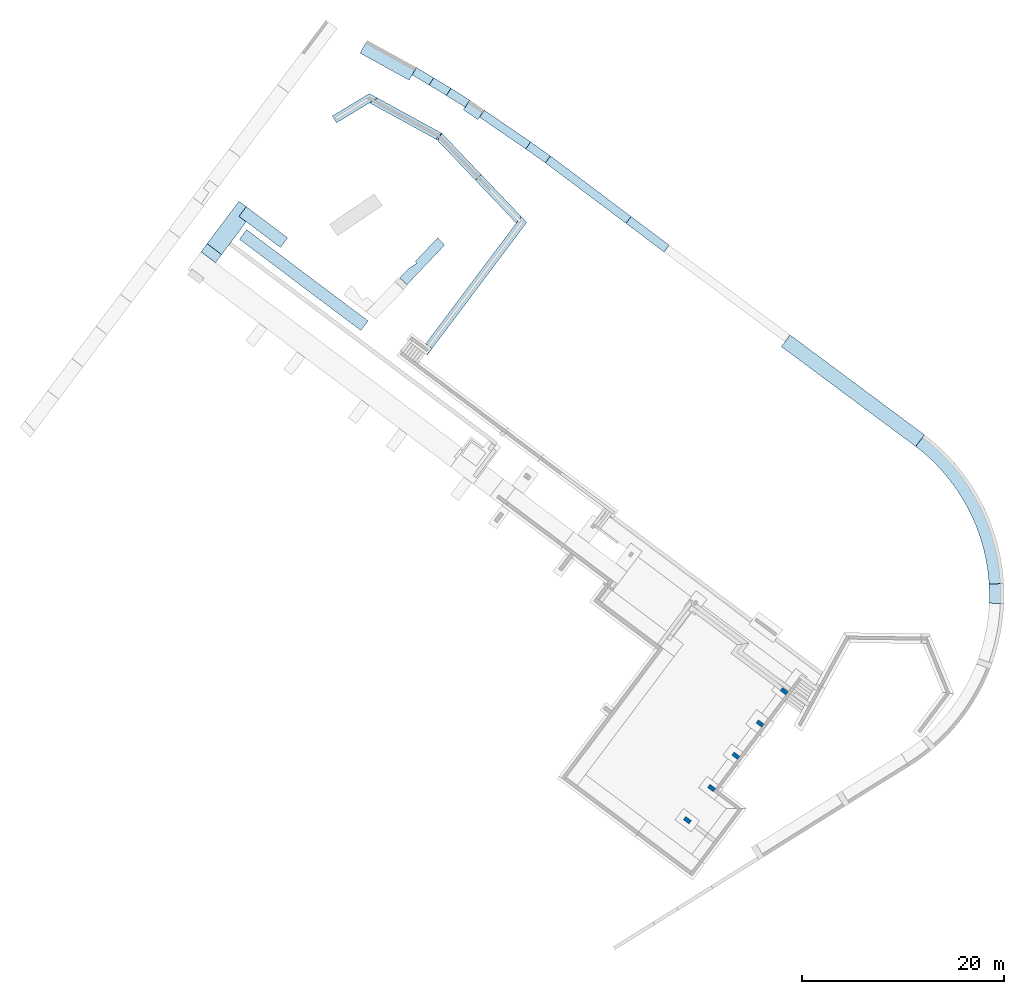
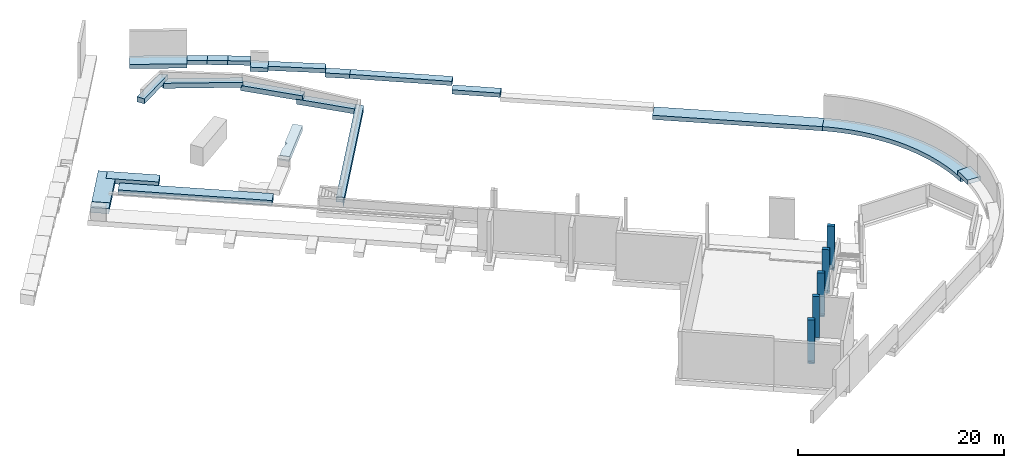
# One storey, part 2 of 9: 22 footings, 5 columns.
"""IFC2X3 building model written with IfcOpenShell, lengths in metres."""

from ifc_helpers import new_model, entity, si_unit, converted_unit, derived_unit, direction, frame, frame_2d, origin, origin_2d_with_axis, place, context, subcontext, project, spatial, polyline, circle_curve, parameter, trimmed, segment, composite_curve, rectangle, outline, extrude, faceted_brep, source, transform, mapped, material, type_object, type_shapes, element, save


model = new_model("IFC2X3")

# Units and contexts
model_context = context("Model", 3, precision=1e-05, world=origin(), true_north=direction((6.123031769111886e-17, 1.0)))
body_context = subcontext(model_context, "Body", "Model", "MODEL_VIEW")
ifc_project = project(units=[si_unit("LENGTHUNIT", "METRE"), si_unit("AREAUNIT", "SQUARE_METRE"), si_unit("VOLUMEUNIT", "CUBIC_METRE"), converted_unit("PLANEANGLEUNIT", "DEGREE", entity("IfcRatioMeasure", 0.017453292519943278), si_unit("PLANEANGLEUNIT", "RADIAN"), dimensions=[0, 0, 0, 0, 0, 0, 0]), si_unit("MASSUNIT", "GRAM", prefix="KILO"), derived_unit("MASSDENSITYUNIT", [(si_unit("MASSUNIT", "GRAM", prefix="KILO"), 1), (si_unit("LENGTHUNIT", "METRE"), -3)]), derived_unit("IONCONCENTRATIONUNIT", [(si_unit("MASSUNIT", "GRAM", prefix="KILO"), 1), (si_unit("LENGTHUNIT", "METRE"), -3)]), derived_unit("MOMENTOFINERTIAUNIT", [(si_unit("LENGTHUNIT", "METRE"), 4)]), si_unit("TIMEUNIT", "SECOND"), si_unit("FREQUENCYUNIT", "HERTZ"), si_unit("THERMODYNAMICTEMPERATUREUNIT", "DEGREE_CELSIUS"), derived_unit("THERMALTRANSMITTANCEUNIT", [(si_unit("MASSUNIT", "GRAM", prefix="KILO"), 1), (si_unit("THERMODYNAMICTEMPERATUREUNIT", "KELVIN"), -1), (si_unit("TIMEUNIT", "SECOND"), -3)]), derived_unit("THERMALCONDUCTANCEUNIT", [(si_unit("MASSUNIT", "GRAM", prefix="KILO"), 1), (si_unit("THERMODYNAMICTEMPERATUREUNIT", "KELVIN"), -1), (si_unit("TIMEUNIT", "SECOND"), -3), (si_unit("LENGTHUNIT", "METRE"), 1)]), derived_unit("VOLUMETRICFLOWRATEUNIT", [(si_unit("LENGTHUNIT", "METRE"), 3), (si_unit("TIMEUNIT", "SECOND"), -1)]), derived_unit("MASSFLOWRATEUNIT", [(si_unit("MASSUNIT", "GRAM", prefix="KILO"), 1), (si_unit("TIMEUNIT", "SECOND"), -1)]), derived_unit("ROTATIONALFREQUENCYUNIT", [(si_unit("TIMEUNIT", "SECOND"), -1)]), si_unit("ELECTRICCURRENTUNIT", "AMPERE"), si_unit("ELECTRICVOLTAGEUNIT", "VOLT"), si_unit("POWERUNIT", "WATT"), si_unit("FORCEUNIT", "NEWTON", prefix="KILO"), si_unit("ILLUMINANCEUNIT", "LUX"), si_unit("LUMINOUSFLUXUNIT", "LUMEN"), si_unit("LUMINOUSINTENSITYUNIT", "CANDELA"), derived_unit("USERDEFINED", [(si_unit("MASSUNIT", "GRAM", prefix="KILO"), -1), (si_unit("LENGTHUNIT", "METRE"), -2), (si_unit("TIMEUNIT", "SECOND"), 3), (si_unit("LUMINOUSFLUXUNIT", "LUMEN"), 1)]), derived_unit("USERDEFINED", [(si_unit("MASSUNIT", "GRAM", prefix="KILO"), 1), (si_unit("TIMEUNIT", "SECOND"), -3), (si_unit("LENGTHUNIT", "METRE"), 3), (si_unit("ELECTRICCURRENTUNIT", "AMPERE"), -2)]), derived_unit("SOUNDPOWERUNIT", [(si_unit("MASSUNIT", "GRAM", prefix="KILO"), 1), (si_unit("TIMEUNIT", "SECOND"), -3), (si_unit("LENGTHUNIT", "METRE"), 2)]), derived_unit("SOUNDPRESSUREUNIT", [(si_unit("MASSUNIT", "GRAM", prefix="KILO"), 1), (si_unit("LENGTHUNIT", "METRE"), -1), (si_unit("TIMEUNIT", "SECOND"), -2)]), derived_unit("LINEARVELOCITYUNIT", [(si_unit("LENGTHUNIT", "METRE"), 1), (si_unit("TIMEUNIT", "SECOND"), -1)]), si_unit("PRESSUREUNIT", "PASCAL"), derived_unit("USERDEFINED", [(si_unit("MASSUNIT", "GRAM", prefix="KILO"), 1), (si_unit("LENGTHUNIT", "METRE"), -2), (si_unit("TIMEUNIT", "SECOND"), -2)]), derived_unit("LINEARFORCEUNIT", [(si_unit("MASSUNIT", "GRAM", prefix="KILO"), 1), (si_unit("TIMEUNIT", "SECOND"), -2)]), derived_unit("PLANARFORCEUNIT", [(si_unit("MASSUNIT", "GRAM", prefix="KILO"), 1), (si_unit("LENGTHUNIT", "METRE"), -1), (si_unit("TIMEUNIT", "SECOND"), -2)]), derived_unit("SPECIFICHEATCAPACITYUNIT", [(si_unit("THERMODYNAMICTEMPERATUREUNIT", "KELVIN"), -1), (si_unit("LENGTHUNIT", "METRE"), 2), (si_unit("TIMEUNIT", "SECOND"), -2)]), derived_unit("HEATINGVALUEUNIT", [(si_unit("LENGTHUNIT", "METRE"), 2), (si_unit("TIMEUNIT", "SECOND"), -2)]), derived_unit("VAPORPERMEABILITYUNIT", [(si_unit("LENGTHUNIT", "METRE"), -1), (si_unit("TIMEUNIT", "SECOND"), 1)]), derived_unit("DYNAMICVISCOSITYUNIT", [(si_unit("MASSUNIT", "GRAM", prefix="KILO"), 1), (si_unit("TIMEUNIT", "SECOND"), -1), (si_unit("LENGTHUNIT", "METRE"), -1)]), derived_unit("THERMALEXPANSIONCOEFFICIENTUNIT", [(si_unit("THERMODYNAMICTEMPERATUREUNIT", "KELVIN"), -1)]), derived_unit("MODULUSOFELASTICITYUNIT", [(si_unit("MASSUNIT", "GRAM", prefix="KILO"), 1), (si_unit("LENGTHUNIT", "METRE"), -1), (si_unit("TIMEUNIT", "SECOND"), -2)]), derived_unit("ISOTHERMALMOISTURECAPACITYUNIT", [(si_unit("LENGTHUNIT", "METRE"), 3), (si_unit("MASSUNIT", "GRAM", prefix="KILO"), -1)]), derived_unit("MOISTUREDIFFUSIVITYUNIT", [(si_unit("TIMEUNIT", "SECOND"), -1), (si_unit("LENGTHUNIT", "METRE"), 2)])], contexts=[model_context])

# Site, building, storey
site_placement = place(None, origin())
site = spatial("IfcSite", under=ifc_project, at=site_placement, Name="Default", CompositionType="ELEMENT")
building_placement = place(site_placement, frame((0.0, 0.0, 235.0), z_axis=(0.0, 0.0, 1.0), x_axis=(-0.7996477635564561, 0.6004693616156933, 0.0)))
building = spatial("IfcBuilding", under=site, at=building_placement, CompositionType="ELEMENT")
storey_placement = place(building_placement, frame((0.0, 0.0, -5.4499999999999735)))
storey = spatial("IfcBuildingStorey", under=building, at=storey_placement, Name="PS1- Gimnàs", CompositionType="ELEMENT", Elevation=-5.4499999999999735)

# Footings
ifc_material = material(Name="_Formigó- T1- STR")
footing_1_placement = place(storey_placement, frame((58.572147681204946, -42.79019175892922, -0.050000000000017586)))
element("IfcFooting", 1, at=footing_1_placement, inside=storey, material=ifc_material, Name="Cimentación de muro:STR- S- Formigó- Sabata mur 120", ObjectType="Cimentación de muro:STR- S- Formigó- Sabata mur 120", PredefinedType="STRIP_FOOTING", context=body_context, shape_type="SweptSolid", body=[
    extrude(rectangle(XDim=15.073000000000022, YDim=1.1999999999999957, at=frame_2d((1.328833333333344, -0.19999999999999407), x_axis=(1.0, 0.0))), frame((8.865333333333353, 0.40000000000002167, 0.0), z_axis=(0.0, 0.0, 1.0), x_axis=(-1.0, 0.0, 0.0)), (0.0, 0.0, 1.0), 0.6000000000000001),
])
footing_2_placement = place(storey_placement, frame((69.89514768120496, -44.59019175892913, -0.050000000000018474)))
element("IfcFooting", 2, at=footing_2_placement, inside=storey, material=ifc_material, Name="Cimentación de muro:STR- S- Formigó- Sabata mur 120", ObjectType="Cimentación de muro:STR- S- Formigó- Sabata mur 120", PredefinedType="STRIP_FOOTING", context=body_context, shape_type="SweptSolid", body=[
    extrude(rectangle(XDim=5.149999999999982, YDim=1.1999999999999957, at=frame_2d((0.43928571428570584, -0.25532857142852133), x_axis=(1.0, 0.0))), frame((2.1357142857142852, 0.8553285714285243, 0.0)), (0.0, 0.0, 1.0), 0.6000000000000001),
])
footing_3_placement = place(storey_placement, frame((51.845147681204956, -60.187111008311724, -1.0499999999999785)))
element("IfcFooting", 3, at=footing_3_placement, inside=storey, material=ifc_material, Name="Cimentación de muro:STR- S- Formigó- Sabata mur 80", ObjectType="Cimentación de muro:STR- S- Formigó- Sabata mur 80", PredefinedType="STRIP_FOOTING", context=body_context, shape_type="SweptSolid", body=[
    extrude(outline(polyline([(1.1684041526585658, -9.189955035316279), (1.9794220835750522, -9.189955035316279), (1.8461926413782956, -8.389955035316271), (-0.6156065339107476, 6.392358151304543), (-1.355417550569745, 6.269152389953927), (-1.4868370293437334, 7.058284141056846), (-1.5361577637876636, 7.050070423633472), (1.1684041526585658, -9.189955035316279)])), frame((0.35714285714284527, 9.390274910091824, 0.0), z_axis=(0.0, 0.0, 1.0), x_axis=(0.9864146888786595, -0.16427434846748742, 0.0)), (0.0, 0.0, 1.0), 0.6),
])
footing_4_placement = place(storey_placement, frame((52.64514768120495, -61.131259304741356, -1.0500000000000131)))
element("IfcFooting", 4, at=footing_4_placement, inside=storey, material=ifc_material, Name="Cimentación de muro:STR- S- Formigó- Sabata mur 80", ObjectType="Cimentación de muro:STR- S- Formigó- Sabata mur 80", PredefinedType="STRIP_FOOTING", context=body_context, shape_type="SweptSolid", body=[
    extrude(outline(polyline([(-2.9070009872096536, -0.39999999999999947), (2.9736157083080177, -0.39999999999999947), (2.8403862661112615, 0.3999999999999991), (-2.9070009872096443, 0.4000000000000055), (-2.9070009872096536, -0.39999999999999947)])), frame((2.867508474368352, 0.8721115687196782, 0.0), z_axis=(0.0, 0.0, 1.0), x_axis=(-0.9864146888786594, 0.16427434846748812, 0.0)), (0.0, 0.0, 1.0), 0.6000000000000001),
])
footing_5_placement = place(storey_placement, frame((63.8047254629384, -62.06460958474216, -0.15000000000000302)))
element("IfcFooting", 5, at=footing_5_placement, inside=storey, material=ifc_material, Name="Cimentación de muro:STR- S- Formigó- Sabata mur 80", ObjectType="Cimentación de muro:STR- S- Formigó- Sabata mur 80", PredefinedType="STRIP_FOOTING", context=body_context, shape_type="SweptSolid", body=[
    extrude(outline(polyline([(-3.2065756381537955, -0.47999999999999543), (4.978256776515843, -0.479999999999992), (4.517180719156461, 0.32000000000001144), (-3.0822862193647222, 0.320000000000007), (-3.2065756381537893, 0.3200000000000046), (-3.2065756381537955, -0.47999999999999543)])), frame((3.2194167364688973, 0.9328151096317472, 0.0), z_axis=(0.0, 0.0, 1.0), x_axis=(0.9897591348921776, 0.14274752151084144, 0.0)), (0.0, 0.0, 1.0), 0.6000000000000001),
])
footing_6_placement = place(storey_placement, frame((71.10483780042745, -61.02822464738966, 0.34999999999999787)))
element("IfcFooting", 6, at=footing_6_placement, inside=storey, material=ifc_material, Name="Cimentación de muro:STR- S- Formigó- Sabata mur 80", ObjectType="Cimentación de muro:STR- S- Formigó- Sabata mur 80", PredefinedType="STRIP_FOOTING", context=body_context, shape_type="Brep", body=[
    faceted_brep([(1.7740946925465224, 4.417751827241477, 0.0), (1.7740946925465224, 4.417751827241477, 0.6000000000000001), (2.5164700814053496, 4.119626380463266, 0.5999999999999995), (2.5164700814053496, 4.119626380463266, 0.0), (0.0, 0.0, 0.6000000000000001), (0.9150983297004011, 0.1319796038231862, 0.599999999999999), (0.34454607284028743, 0.8579694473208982, 0.0), (0.3445460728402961, 0.8579694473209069, 0.09999999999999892), (0.0, 0.0, 0.09999999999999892), (0.9150983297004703, 0.13197960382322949, 0.0), (0.9150983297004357, 0.13197960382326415, 0.09999999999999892)], [[[0, 1, 2, 3]], [[1, 4, 5, 2]], [[1, 0, 6, 7, 8, 4]], [[0, 3, 9, 6]], [[3, 2, 5, 10, 9]], [[5, 4, 8, 10]], [[7, 10, 8]], [[10, 7, 6, 9]]]),
])
footing_7_placement = place(storey_placement, frame((57.015714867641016, -53.53502235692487, 0.7999999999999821)))
element("IfcFooting", 7, at=footing_7_placement, inside=storey, material=ifc_material, Name="Cimentación de muro:STR- S- Formigó- Sabata mur 100 T-30", ObjectType="Cimentación de muro:STR- S- Formigó- Sabata mur 100 T-30", PredefinedType="STRIP_FOOTING", context=body_context, shape_type="SweptSolid", body=[
    extrude(outline(polyline([(-2.3620493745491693, -0.6834209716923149), (3.0514310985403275, -0.683420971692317), (3.1211609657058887, 0.316579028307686), (-0.12251246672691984, 0.316579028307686), (-0.16983977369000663, 0.10052583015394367), (-1.1561410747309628, 0.3165790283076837), (-2.36204937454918, 0.31657902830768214), (-2.3620493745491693, -0.6834209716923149)])), frame((1.0274868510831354, 3.1368940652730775, 0.0), z_axis=(0.0, 0.0, 1.0), x_axis=(-0.11422137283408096, -0.9934553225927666, 0.0)), (0.0, 0.0, 1.0), 0.6000000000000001),
])
footing_8_placement = place(storey_placement, frame((74.14514768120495, -39.3151917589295, -0.050000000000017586)))
element("IfcFooting", 8, at=footing_8_placement, inside=storey, material=ifc_material, Name="Cimentación de muro:STR- S- Formigó- Sabata mur 180", ObjectType="Cimentación de muro:STR- S- Formigó- Sabata mur 180", PredefinedType="STRIP_FOOTING", context=body_context, shape_type="SweptSolid", body=[
    extrude(rectangle(XDim=1.0000000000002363, YDim=1.799999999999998, at=frame_2d((1.2989609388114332e-14, -4.3298697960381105e-15), x_axis=(1.0, 0.0))), frame((0.9000000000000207, 0.5000000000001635, 0.0), z_axis=(0.0, 0.0, 1.0), x_axis=(0.0, 1.0, 0.0)), (0.0, 0.0, 1.0), 0.6000000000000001),
])
footing_9_placement = place(storey_placement, frame((74.14514768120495, -44.59019175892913, -0.05000000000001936)))
element("IfcFooting", 9, at=footing_9_placement, inside=storey, material=ifc_material, Name="Cimentación de muro:STR- S- Formigó- Sabata mur 180", ObjectType="Cimentación de muro:STR- S- Formigó- Sabata mur 180", PredefinedType="STRIP_FOOTING", context=body_context, shape_type="SweptSolid", body=[
    extrude(outline(polyline([(-3.116666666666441, -0.9000000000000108), (0.9583333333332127, -0.9000000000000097), (0.9583333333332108, 0.0), (2.158333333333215, 0.0), (2.1583333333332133, 0.8999999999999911), (-3.1166666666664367, 0.8999999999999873), (-3.116666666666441, -0.9000000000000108)])), frame((0.900000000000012, 2.1583333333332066, 0.0), z_axis=(0.0, 0.0, 1.0), x_axis=(0.0, -1.0, 0.0)), (0.0, 0.0, 1.0), 0.6000000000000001),
])
footing_10_placement = place(storey_placement, frame((69.6638592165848, -65.76654735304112, -0.4750000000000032)))
element("IfcFooting", 10, at=footing_10_placement, inside=storey, material=ifc_material, Name="Cimentación de muro:STR- S- Formigó- Sabata MP1 +2m", ObjectType="Cimentación de muro:STR- S- Formigó- Sabata MP1 +2m", PredefinedType="STRIP_FOOTING", context=body_context, shape_type="SweptSolid", body=[
    extrude(outline(polyline([(-3.3417884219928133, -0.7000000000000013), (2.2151264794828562, -0.7000000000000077), (2.2263062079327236, -0.10000000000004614), (2.2421441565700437, 0.7499999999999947), (-3.34178842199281, 0.7499999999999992), (-3.3417884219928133, -0.7000000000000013)])), frame((2.291214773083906, 1.0559837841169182, 0.0), z_axis=(0.0, 0.0, 1.0), x_axis=(-0.990186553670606, -0.13975188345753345, 0.0)), (0.0, 0.0, 1.0), 0.5),
])
footing_11_placement = place(storey_placement, frame((67.77089368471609, -65.97126538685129, -0.4750000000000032)))
element("IfcFooting", 11, at=footing_11_placement, inside=storey, material=ifc_material, Name="Cimentación de muro:STR- S- Formigó- Sabata MP -1 m", ObjectType="Cimentación de muro:STR- S- Formigó- Sabata MP -1 m", PredefinedType="STRIP_FOOTING", context=body_context, shape_type="SweptSolid", body=[
    extrude(outline(polyline([(-0.9920644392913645, -0.4249999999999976), (0.9999834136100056, -0.4249999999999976), (0.9841454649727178, 0.4250000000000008), (-0.9920644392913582, 0.425000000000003), (-0.9920644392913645, -0.4249999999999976)])), frame((1.0304880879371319, 0.5247019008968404, 0.0), z_axis=(0.0, 0.0, 1.0), x_axis=(0.9947053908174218, 0.10276762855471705, 0.0)), (0.0, 0.0, 1.0), 0.4999999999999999),
])
footing_12_placement = place(storey_placement, frame((63.59137409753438, -66.3621164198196, -0.4750000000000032)))
element("IfcFooting", 12, at=footing_12_placement, inside=storey, material=ifc_material, Name="Cimentación de muro:STR- S- Formigó- Sabata MP -1 m", ObjectType="Cimentación de muro:STR- S- Formigó- Sabata MP -1 m", PredefinedType="STRIP_FOOTING", context=body_context, shape_type="SweptSolid", body=[
    extrude(outline(polyline([(-0.41417602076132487, -1.471100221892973), (0.43586301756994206, -1.471100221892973), (0.4569882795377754, 0.7330742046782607), (-0.04263885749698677, 0.7378627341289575), (-0.04306373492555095, 0.7300430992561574), (-0.392972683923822, 0.7412204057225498), (-0.41417602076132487, -1.471100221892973)])), frame((0.7724863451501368, 0.4603650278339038, 0.0), z_axis=(0.0, 0.0, 1.0), x_axis=(-0.09322988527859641, 0.9956446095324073, 0.0)), (0.0, 0.0, 1.0), 0.5),
])
footing_13_placement = place(storey_placement, frame((61.86271337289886, -66.43066463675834, -0.9750000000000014)))
element("IfcFooting", 13, at=footing_13_placement, inside=storey, material=ifc_material, Name="Cimentación de muro:STR- S- Formigó- Sabata MP -1 i 2 m", ObjectType="Cimentación de muro:STR- S- Formigó- Sabata MP -1 i 2 m", PredefinedType="STRIP_FOOTING", context=body_context, shape_type="SweptSolid", body=[
    extrude(outline(polyline([(-1.0532421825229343, -0.5200000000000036), (0.7029554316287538, -0.5200000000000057), (0.7024626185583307, -0.21999999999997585), (0.7010663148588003, 0.6299999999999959), (-1.0532421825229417, 0.6299999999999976), (-1.0532421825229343, -0.5200000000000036)])), frame((0.7227371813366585, 0.6569124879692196, 0.0), z_axis=(0.0, 0.0, 1.0), x_axis=(-0.999236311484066, -0.03907420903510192, 0.0)), (0.0, 0.0, 1.0), 0.49999999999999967),
])
footing_14_placement = place(storey_placement, frame((65.78791798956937, -66.17697300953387, -0.4750000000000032)))
element("IfcFooting", 14, at=footing_14_placement, inside=storey, material=ifc_material, Name="Cimentación de muro:STR- S- Formigó- Sabata MP -1 m", ObjectType="Cimentación de muro:STR- S- Formigó- Sabata MP -1 m", PredefinedType="STRIP_FOOTING", context=body_context, shape_type="SweptSolid", body=[
    extrude(outline(polyline([(-0.9988019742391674, -0.4250000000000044), (0.994728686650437, -0.4250000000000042), (1.0028752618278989, 0.42499999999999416), (-0.9988019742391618, 0.4249999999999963), (-0.9988019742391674, -0.4250000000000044)])), frame((1.0331382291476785, 0.5258129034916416, 0.0), z_axis=(0.0, 0.0, 1.0), x_axis=(-0.9947053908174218, -0.10276762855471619, 0.0)), (0.0, 0.0, 1.0), 0.5),
])
footing_15_placement = place(storey_placement, frame((56.301814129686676, -66.6668773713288, -0.9750000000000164)))
element("IfcFooting", 15, at=footing_15_placement, inside=storey, material=ifc_material, Name="Cimentación de muro:STR- S- Formigó- Sabata MP -1 m", ObjectType="Cimentación de muro:STR- S- Formigó- Sabata MP -1 m", PredefinedType="STRIP_FOOTING", context=body_context, shape_type="SweptSolid", body=[
    extrude(outline(polyline([(-0.39389916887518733, -3.717819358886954), (0.4561019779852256, -3.7178193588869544), (0.4469387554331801, 1.8602931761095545), (-0.05302499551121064, 1.8594718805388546), (-0.05305647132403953, 1.8569767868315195), (-0.40306009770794, 1.85889687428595), (-0.39389916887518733, -3.717819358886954)])), frame((1.8769479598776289, 0.4784119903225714, 0.0), z_axis=(0.0, 0.0, 1.0), x_axis=(-0.04071560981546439, 0.9991707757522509, 0.0)), (0.0, 0.0, 1.0), 0.4999999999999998),
])
footing_16_placement = place(storey_placement, frame((43.92766201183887, -66.73449841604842, -1.4750000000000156)))
element("IfcFooting", 16, at=footing_16_placement, inside=storey, material=ifc_material, Name="Cimentación de muro:STR- S- Formigó- Sabata MP -1 m", ObjectType="Cimentación de muro:STR- S- Formigó- Sabata MP -1 m", PredefinedType="STRIP_FOOTING", context=body_context, shape_type="SweptSolid", body=[
    extrude(outline(polyline([(-4.9937447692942, -0.425000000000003), (4.99971905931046, -0.425000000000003), (4.999719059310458, 0.4249999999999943), (-5.005693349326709, 0.4249999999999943), (-4.9937447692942, -0.425000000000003)])), frame((4.9997190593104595, 0.42499999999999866, 0.0), z_axis=(0.0, 0.0, 1.0), x_axis=(-1.0, 0.0, 0.0)), (0.0, 0.0, 1.0), 0.5),
])
footing_17_placement = place(storey_placement, frame((39.20251713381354, -66.73449841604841, -2.4750000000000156)))
element("IfcFooting", 17, at=footing_17_placement, inside=storey, material=ifc_material, Name="Cimentación de muro:STR- S- Formigó- Sabata MP -1 m", ObjectType="Cimentación de muro:STR- S- Formigó- Sabata MP -1 m", PredefinedType="STRIP_FOOTING", context=body_context, shape_type="SweptSolid", body=[
    extrude(rectangle(XDim=4.725144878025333, YDim=0.8499999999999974, at=frame_2d((-0.787366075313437, -0.08333333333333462), x_axis=(1.0, 0.0))), frame((1.575206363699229, 0.3416666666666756, 0.0), z_axis=(0.0, 0.0, 1.0), x_axis=(-1.0, 0.0, 0.0)), (0.0, 0.0, 1.0), 0.5),
])
footing_18_placement = place(storey_placement, frame((7.636766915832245, -66.89283170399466, -3.475000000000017)))
element("IfcFooting", 18, at=footing_18_placement, inside=storey, material=ifc_material, Name="Cimentación de muro:STR- S- Formigó- Sabata MP1 +2m", ObjectType="Cimentación de muro:STR- S- Formigó- Sabata MP1 +2m", PredefinedType="STRIP_FOOTING", context=body_context, shape_type="SweptSolid", body=[
    extrude(outline(polyline([(-8.31023119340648, -0.7249999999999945), (8.306105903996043, -0.7250000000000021), (8.314356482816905, 0.7249999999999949), (-8.310231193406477, 0.7250000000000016), (-8.31023119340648, -0.7249999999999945)])), frame((8.310893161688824, 0.7636776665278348, 0.0), z_axis=(0.0, 0.0, 1.0), x_axis=(-0.9999891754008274, -0.0046528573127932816, 0.0)), (0.0, 0.0, 1.0), 0.5),
])
footing_19_placement = place(storey_placement, frame((-7.878734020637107, -66.89442697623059, -3.475000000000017)))
element("IfcFooting", 19, at=footing_19_placement, inside=storey, material=ifc_material, Name="Cimentación de muro:STR- S- Formigó- Sabata MP1 +2m", ObjectType="Cimentación de muro:STR- S- Formigó- Sabata MP1 +2m", PredefinedType="STRIP_FOOTING", context=body_context, shape_type="SweptSolid", body=[
    extrude(outline(composite_curve([segment(polyline([(2.8576747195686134, -7.498032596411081), (4.307674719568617, -7.49803259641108)]), True, "CONTINUOUS"), segment(trimmed(circle_curve(frame_2d((-15.692325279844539, -7.498032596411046), x_axis=(0.6280964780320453, 0.7781354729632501)), 19.999999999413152), [parameter(308.90982334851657)], [parameter(0.0)], True, "PARAMETER"), True, "CONTINUOUS"), segment(polyline([(-3.1303957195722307, 8.064676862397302), (-4.03495371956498, 6.931388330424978)]), True, "CONTINUOUS"), segment(trimmed(circle_curve(frame_2d((-15.692325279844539, -7.498032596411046), x_axis=(0.6280964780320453, 0.7781354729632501)), 18.54999999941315), [parameter(308.9098233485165)], [parameter(359.9754574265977)], True, "PARAMETER"), False, "CONTINUOUS")], self_intersect=False)), frame((8.042475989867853, 4.359609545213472, 0.0), z_axis=(0.0, 0.0, 1.0), x_axis=(-0.7822122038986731, -0.623012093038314, 0.0)), (0.0, 0.0, 1.0), 0.4999999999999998),
])
footing_20_placement = place(storey_placement, frame((53.921125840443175, -66.73449841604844, -1.4750000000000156)))
element("IfcFooting", 20, at=footing_20_placement, inside=storey, material=ifc_material, Name="Cimentación de muro:STR- S- Formigó- Sabata MP -1 m", ObjectType="Cimentación de muro:STR- S- Formigó- Sabata MP -1 m", PredefinedType="STRIP_FOOTING", context=body_context, shape_type="SweptSolid", body=[
    extrude(outline(polyline([(-1.1998596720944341, -0.42499999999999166), (1.193885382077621, -0.4249999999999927), (1.2058339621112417, 0.42500000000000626), (-1.1998596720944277, 0.42500000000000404), (-1.1998596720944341, -0.42499999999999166)])), frame((1.205359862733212, 0.4587265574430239, 0.0), z_axis=(0.0, 0.0, 1.0), x_axis=(-0.9996048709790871, -0.028108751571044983, 0.0)), (0.0, 0.0, 1.0), 0.4999999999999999),
])
footing_21_placement = place(storey_placement, frame((-8.718188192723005, -59.82377487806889, -2.9750000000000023)))
element("IfcFooting", 21, at=footing_21_placement, inside=storey, material=ifc_material, Name="Cimentación de muro:STR- S- Formigó- Sabata MP1 +2m", ObjectType="Cimentación de muro:STR- S- Formigó- Sabata MP1 +2m", PredefinedType="STRIP_FOOTING", context=body_context, shape_type="SweptSolid", body=[
    extrude(outline(composite_curve([segment(trimmed(circle_curve(frame_2d((-19.29803863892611, 0.7216356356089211), x_axis=(1.0, 0.0)), 19.999999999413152), [parameter(354.2198688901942)], [parameter(358.2622383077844)], True, "PARAMETER"), True, "CONTINUOUS"), segment(trimmed(circle_curve(frame_2d((-19.29803863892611, 0.7216356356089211), x_axis=(1.0, 0.0)), 19.999999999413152), [parameter(358.2622383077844)], [parameter(0.0)], True, "PARAMETER"), True, "CONTINUOUS"), segment(polyline([(0.7019613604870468, 0.721635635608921), (0.35196136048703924, 0.7216356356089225)]), True, "CONTINUOUS"), segment(polyline([(0.35196136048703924, 0.7216356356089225), (-0.7480386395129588, 0.721635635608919)]), True, "CONTINUOUS"), segment(trimmed(circle_curve(frame_2d((-19.29803863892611, 0.7216356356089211), x_axis=(1.0, 0.0)), 18.549999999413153), [parameter(358.2622383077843)], [parameter(0.0)], True, "PARAMETER"), False, "CONTINUOUS"), segment(trimmed(circle_curve(frame_2d((-19.29803863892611, 0.7216356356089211), x_axis=(1.0, 0.0)), 18.549999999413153), [parameter(354.2198688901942)], [parameter(358.2622383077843)], True, "PARAMETER"), False, "CONTINUOUS"), segment(polyline([(-0.8423525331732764, -1.1465587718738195), (0.6002752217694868, -1.2925901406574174)]), True, "CONTINUOUS")], self_intersect=False)), frame((1.2951709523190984, 1.0059543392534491, 0.0), z_axis=(0.0, 0.0, 1.0), x_axis=(-0.7629596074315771, -0.6464461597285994, 0.0)), (0.0, 0.0, 1.0), 0.5),
])
footing_22_placement = place(storey_placement, frame((57.72260607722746, -62.06460958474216, -0.5499999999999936)))
element("IfcFooting", 22, at=footing_22_placement, inside=storey, material=ifc_material, Name="Cimentación de muro:STR- S- Formigó- Sabata mur 80", ObjectType="Cimentación de muro:STR- S- Formigó- Sabata mur 80", PredefinedType="STRIP_FOOTING", context=body_context, shape_type="Brep", body=[
    faceted_brep([(0.0, 1.0319148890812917, 0.6000000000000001), (0.13141947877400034, 1.8210466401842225, 0.6000000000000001), (0.13141947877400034, 1.8210466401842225, 0.09999999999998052), (0.0, 1.0319148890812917, 0.09999999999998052), (6.196317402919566, 0.0, 0.0), (6.327736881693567, 0.7891317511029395, 0.0), (6.327736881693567, 0.7891317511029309, 0.3999999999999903), (6.196317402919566, 0.0, 0.3999999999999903), (6.1963174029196, 0.0, 0.6000000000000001), (6.082119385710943, 0.7918073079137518, 0.6000000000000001), (6.205135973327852, 0.8095493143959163, 0.6000000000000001), (6.205135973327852, 0.8095493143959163, 0.3999999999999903), (0.723268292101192, 1.7224820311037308, 0.0), (0.7232682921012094, 1.7224820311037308, 0.09999999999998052), (0.591848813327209, 0.9333502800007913, 0.0), (0.5918488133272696, 0.9333502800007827, 0.09999999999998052), (6.082119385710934, 0.7918073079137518, 0.3999999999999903)], [[[0, 1, 2, 3]], [[4, 5, 6, 7]], [[0, 8, 9, 10, 1]], [[2, 1, 10, 11, 6, 5, 12, 13]], [[5, 4, 14, 12]], [[8, 0, 3, 15, 14, 4, 7]], [[15, 13, 12, 14]], [[13, 15, 3, 2]], [[16, 11, 10, 9]], [[16, 7, 6, 11]], [[7, 16, 9, 8]]]),
])

# Columns
column_type_1 = type_object("IfcColumnType", Name="STR- P- Formigó- Rectangular- T1:40x70cm", PredefinedType="COLUMN", material=ifc_material)
shared_shape_1 = source(origin(), body_context, "Body", "SweptSolid", [
    extrude(rectangle(XDim=0.4, YDim=0.7000000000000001, at=frame_2d((2.1649348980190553e-15, -5.551115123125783e-16), x_axis=(1.0, 0.0))), frame((3.4951476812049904, -26.190191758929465, -6.0), z_axis=(0.0, 0.0, 1.0), x_axis=(0.0, -1.0, 0.0)), (0.0, 0.0, 1.0), 0.2000000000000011),
    extrude(rectangle(XDim=0.4, YDim=0.7000000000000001, at=frame_2d((2.1649348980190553e-15, -5.551115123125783e-16), x_axis=(1.0, 0.0))), frame((3.4951476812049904, -26.190191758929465, -5.649999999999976), z_axis=(0.0, 0.0, 1.0), x_axis=(0.0, -1.0, 0.0)), (0.0, 0.0, 1.0), 4.859999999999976),
])
type_shapes(column_type_1, [shared_shape_1])
column_1_placement = place(storey_placement, frame((0.0, 0.0, 5.4499999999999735)))
element("IfcColumn", 23, at=column_1_placement, inside=storey, type_object=column_type_1, material=ifc_material, Name="STR- P- Formigó- Rectangular- T1:40x70cm", ObjectType="STR- P- Formigó- Rectangular- T1:40x70cm", context=body_context, shape_type="MappedRepresentation", body=[
    mapped(shared_shape_1, transform((0.0, 0.0, 0.0), scale=1.0)),
])
column_type_2 = type_object("IfcColumnType", Name="STR- P- Formigó- Rectangular- T1:40x70cm", PredefinedType="COLUMN", material=ifc_material)
shared_shape_2 = source(origin(), body_context, "Body", "SweptSolid", [
    extrude(rectangle(XDim=0.4, YDim=0.7000000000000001, at=frame_2d((2.1649348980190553e-15, 0.0), x_axis=(1.0, 0.0))), frame((3.4951476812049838, -30.19019175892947, -6.0), z_axis=(0.0, 0.0, 1.0), x_axis=(0.0, -1.0, 0.0)), (0.0, 0.0, 1.0), 0.2000000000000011),
    extrude(rectangle(XDim=0.4, YDim=0.7000000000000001, at=frame_2d((2.1649348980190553e-15, 0.0), x_axis=(1.0, 0.0))), frame((3.4951476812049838, -30.19019175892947, -5.649999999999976), z_axis=(0.0, 0.0, 1.0), x_axis=(0.0, -1.0, 0.0)), (0.0, 0.0, 1.0), 4.859999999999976),
])
type_shapes(column_type_2, [shared_shape_2])
column_2_placement = place(storey_placement, frame((0.0, 0.0, 5.4499999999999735)))
element("IfcColumn", 24, at=column_2_placement, inside=storey, type_object=column_type_2, material=ifc_material, Name="STR- P- Formigó- Rectangular- T1:40x70cm", ObjectType="STR- P- Formigó- Rectangular- T1:40x70cm", context=body_context, shape_type="MappedRepresentation", body=[
    mapped(shared_shape_2, transform((0.0, 0.0, 0.0), scale=1.0)),
])
column_type_3 = type_object("IfcColumnType", Name="STR- P- Formigó- Rectangular- T1:40x70cm", PredefinedType="COLUMN", material=ifc_material)
shared_shape_3 = source(origin(), body_context, "Body", "SweptSolid", [
    extrude(rectangle(XDim=0.4, YDim=0.7000000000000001, at=frame_2d((2.1649348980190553e-15, -5.551115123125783e-16), x_axis=(1.0, 0.0))), frame((3.4951476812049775, -34.190191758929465, -6.0), z_axis=(0.0, 0.0, 1.0), x_axis=(0.0, -1.0, 0.0)), (0.0, 0.0, 1.0), 0.2000000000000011),
    extrude(rectangle(XDim=0.4, YDim=0.7000000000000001, at=frame_2d((2.1649348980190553e-15, -5.551115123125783e-16), x_axis=(1.0, 0.0))), frame((3.4951476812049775, -34.190191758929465, -5.649999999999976), z_axis=(0.0, 0.0, 1.0), x_axis=(0.0, -1.0, 0.0)), (0.0, 0.0, 1.0), 4.859999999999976),
])
type_shapes(column_type_3, [shared_shape_3])
column_3_placement = place(storey_placement, frame((0.0, 0.0, 5.4499999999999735)))
element("IfcColumn", 25, at=column_3_placement, inside=storey, type_object=column_type_3, material=ifc_material, Name="STR- P- Formigó- Rectangular- T1:40x70cm", ObjectType="STR- P- Formigó- Rectangular- T1:40x70cm", context=body_context, shape_type="MappedRepresentation", body=[
    mapped(shared_shape_3, transform((0.0, 0.0, 0.0), scale=1.0)),
])
column_type_4 = type_object("IfcColumnType", Name="STR- P- Formigó- Rectangular- T1:40x70cm", PredefinedType="COLUMN", material=ifc_material)
shared_shape_4 = source(origin(), body_context, "Body", "SweptSolid", [
    extrude(rectangle(XDim=0.4, YDim=0.7000000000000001, at=frame_2d((2.1649348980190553e-15, 0.0), x_axis=(1.0, 0.0))), frame((3.4951476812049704, -38.190191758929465, -6.0), z_axis=(0.0, 0.0, 1.0), x_axis=(0.0, -1.0, 0.0)), (0.0, 0.0, 1.0), 0.2000000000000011),
    extrude(rectangle(XDim=0.4, YDim=0.7000000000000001, at=frame_2d((2.1649348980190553e-15, 0.0), x_axis=(1.0, 0.0))), frame((3.4951476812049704, -38.190191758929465, -5.649999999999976), z_axis=(0.0, 0.0, 1.0), x_axis=(0.0, -1.0, 0.0)), (0.0, 0.0, 1.0), 4.859999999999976),
])
type_shapes(column_type_4, [shared_shape_4])
column_4_placement = place(storey_placement, frame((0.0, 0.0, 5.4499999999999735)))
element("IfcColumn", 26, at=column_4_placement, inside=storey, type_object=column_type_4, material=ifc_material, Name="STR- P- Formigó- Rectangular- T1:40x70cm", ObjectType="STR- P- Formigó- Rectangular- T1:40x70cm", context=body_context, shape_type="MappedRepresentation", body=[
    mapped(shared_shape_4, transform((0.0, 0.0, 0.0), scale=1.0)),
])
column_type_5 = type_object("IfcColumnType", Name="STR- P- Formigó- Rectangular- T1:40x70cm", PredefinedType="COLUMN", material=ifc_material)
shared_shape_5 = source(origin(), body_context, "Body", "SweptSolid", [
    extrude(rectangle(XDim=0.4, YDim=0.7000000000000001, at=origin_2d_with_axis()), frame((3.4951476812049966, -22.190191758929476, -6.0), z_axis=(0.0, 0.0, 1.0), x_axis=(0.0, -1.0, 0.0)), (0.0, 0.0, 1.0), 0.2000000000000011),
    extrude(rectangle(XDim=0.4, YDim=0.7000000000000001, at=origin_2d_with_axis()), frame((3.4951476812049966, -22.190191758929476, -5.649999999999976), z_axis=(0.0, 0.0, 1.0), x_axis=(0.0, -1.0, 0.0)), (0.0, 0.0, 1.0), 4.859999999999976),
])
type_shapes(column_type_5, [shared_shape_5])
column_5_placement = place(storey_placement, frame((0.0, 0.0, 5.4499999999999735)))
element("IfcColumn", 27, at=column_5_placement, inside=storey, type_object=column_type_5, material=ifc_material, Name="STR- P- Formigó- Rectangular- T1:40x70cm", ObjectType="STR- P- Formigó- Rectangular- T1:40x70cm", context=body_context, shape_type="MappedRepresentation", body=[
    mapped(shared_shape_5, transform((0.0, 0.0, 0.0), scale=1.0)),
])

save(model, "model.ifc")
